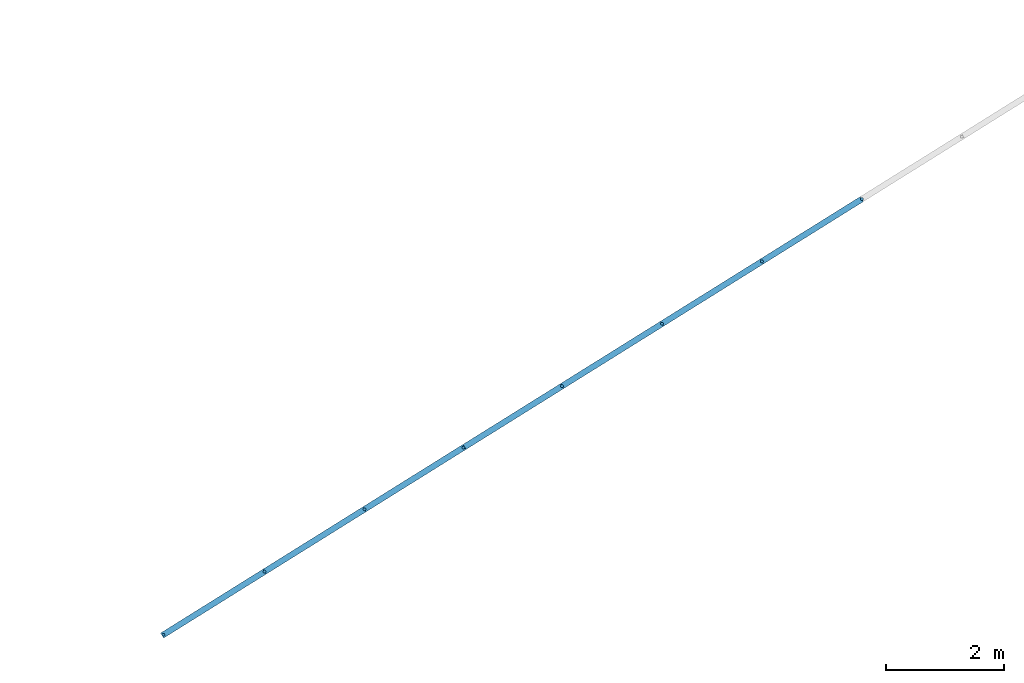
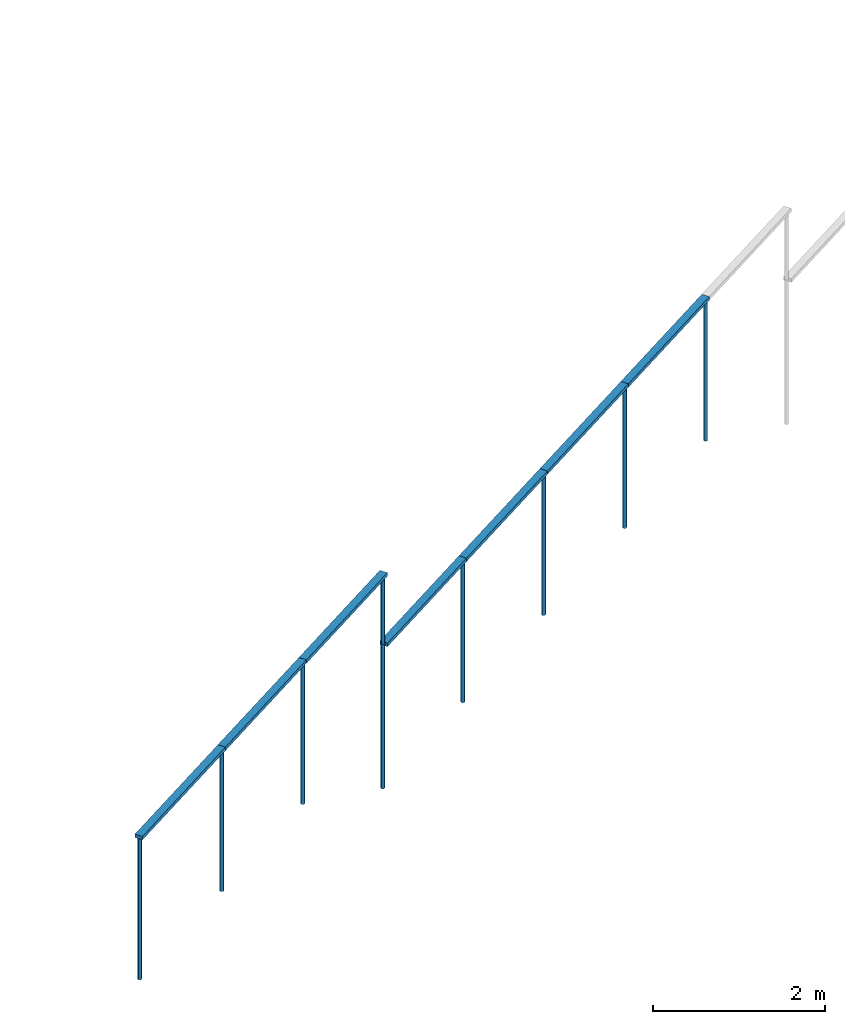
# One storey, part 2 of 3: 16 members, 2 elements without a shape of their own.
"""IFC2X3 building model written with IfcOpenShell, lengths in metres."""

from ifc_helpers import new_model, entity, si_unit, converted_unit, derived_unit, direction, frame, frame_2d, origin, origin_2d_with_axis, place, context, subcontext, project, spatial, rectangle, circle, extrude, source, transform, mapped, material, type_object, type_shapes, element, aggregate, save


model = new_model("IFC2X3")

# Units and contexts
model_context = context("Model", 3, precision=1e-05, world=origin(), true_north=direction((6.123031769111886e-17, 1.0)))
body_context = subcontext(model_context, "Body", "Model", "MODEL_VIEW")
ifc_project = project(units=[si_unit("LENGTHUNIT", "METRE"), si_unit("AREAUNIT", "SQUARE_METRE"), si_unit("VOLUMEUNIT", "CUBIC_METRE"), converted_unit("PLANEANGLEUNIT", "DEGREE", entity("IfcRatioMeasure", 0.017453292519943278), si_unit("PLANEANGLEUNIT", "RADIAN"), dimensions=[0, 0, 0, 0, 0, 0, 0]), si_unit("MASSUNIT", "GRAM", prefix="KILO"), derived_unit("MASSDENSITYUNIT", [(si_unit("MASSUNIT", "GRAM", prefix="KILO"), 1), (si_unit("LENGTHUNIT", "METRE"), -3)]), derived_unit("IONCONCENTRATIONUNIT", [(si_unit("MASSUNIT", "GRAM", prefix="KILO"), 1), (si_unit("LENGTHUNIT", "METRE"), -3)]), derived_unit("MOMENTOFINERTIAUNIT", [(si_unit("LENGTHUNIT", "METRE"), 4)]), si_unit("TIMEUNIT", "SECOND"), si_unit("FREQUENCYUNIT", "HERTZ"), si_unit("THERMODYNAMICTEMPERATUREUNIT", "DEGREE_CELSIUS"), derived_unit("THERMALTRANSMITTANCEUNIT", [(si_unit("MASSUNIT", "GRAM", prefix="KILO"), 1), (si_unit("THERMODYNAMICTEMPERATUREUNIT", "KELVIN"), -1), (si_unit("TIMEUNIT", "SECOND"), -3)]), derived_unit("THERMALCONDUCTANCEUNIT", [(si_unit("MASSUNIT", "GRAM", prefix="KILO"), 1), (si_unit("THERMODYNAMICTEMPERATUREUNIT", "KELVIN"), -1), (si_unit("TIMEUNIT", "SECOND"), -3), (si_unit("LENGTHUNIT", "METRE"), 1)]), derived_unit("VOLUMETRICFLOWRATEUNIT", [(si_unit("LENGTHUNIT", "METRE"), 3), (si_unit("TIMEUNIT", "SECOND"), -1)]), derived_unit("MASSFLOWRATEUNIT", [(si_unit("MASSUNIT", "GRAM", prefix="KILO"), 1), (si_unit("TIMEUNIT", "SECOND"), -1)]), derived_unit("ROTATIONALFREQUENCYUNIT", [(si_unit("TIMEUNIT", "SECOND"), -1)]), si_unit("ELECTRICCURRENTUNIT", "AMPERE"), si_unit("ELECTRICVOLTAGEUNIT", "VOLT"), si_unit("POWERUNIT", "WATT"), si_unit("FORCEUNIT", "NEWTON", prefix="KILO"), si_unit("ILLUMINANCEUNIT", "LUX"), si_unit("LUMINOUSFLUXUNIT", "LUMEN"), si_unit("LUMINOUSINTENSITYUNIT", "CANDELA"), derived_unit("USERDEFINED", [(si_unit("MASSUNIT", "GRAM", prefix="KILO"), -1), (si_unit("LENGTHUNIT", "METRE"), -2), (si_unit("TIMEUNIT", "SECOND"), 3), (si_unit("LUMINOUSFLUXUNIT", "LUMEN"), 1)]), derived_unit("USERDEFINED", [(si_unit("MASSUNIT", "GRAM", prefix="KILO"), 1), (si_unit("TIMEUNIT", "SECOND"), -3), (si_unit("LENGTHUNIT", "METRE"), 3), (si_unit("ELECTRICCURRENTUNIT", "AMPERE"), -2)]), derived_unit("SOUNDPOWERUNIT", [(si_unit("MASSUNIT", "GRAM", prefix="KILO"), 1), (si_unit("TIMEUNIT", "SECOND"), -3), (si_unit("LENGTHUNIT", "METRE"), 2)]), derived_unit("SOUNDPRESSUREUNIT", [(si_unit("MASSUNIT", "GRAM", prefix="KILO"), 1), (si_unit("LENGTHUNIT", "METRE"), -1), (si_unit("TIMEUNIT", "SECOND"), -2)]), derived_unit("LINEARVELOCITYUNIT", [(si_unit("LENGTHUNIT", "METRE"), 1), (si_unit("TIMEUNIT", "SECOND"), -1)]), si_unit("PRESSUREUNIT", "PASCAL"), derived_unit("USERDEFINED", [(si_unit("MASSUNIT", "GRAM", prefix="KILO"), 1), (si_unit("LENGTHUNIT", "METRE"), -2), (si_unit("TIMEUNIT", "SECOND"), -2)]), derived_unit("LINEARFORCEUNIT", [(si_unit("MASSUNIT", "GRAM", prefix="KILO"), 1), (si_unit("TIMEUNIT", "SECOND"), -2)]), derived_unit("PLANARFORCEUNIT", [(si_unit("MASSUNIT", "GRAM", prefix="KILO"), 1), (si_unit("LENGTHUNIT", "METRE"), -1), (si_unit("TIMEUNIT", "SECOND"), -2)]), derived_unit("SPECIFICHEATCAPACITYUNIT", [(si_unit("THERMODYNAMICTEMPERATUREUNIT", "KELVIN"), -1), (si_unit("LENGTHUNIT", "METRE"), 2), (si_unit("TIMEUNIT", "SECOND"), -2)]), derived_unit("HEATINGVALUEUNIT", [(si_unit("LENGTHUNIT", "METRE"), 2), (si_unit("TIMEUNIT", "SECOND"), -2)]), derived_unit("VAPORPERMEABILITYUNIT", [(si_unit("LENGTHUNIT", "METRE"), -1), (si_unit("TIMEUNIT", "SECOND"), 1)]), derived_unit("DYNAMICVISCOSITYUNIT", [(si_unit("MASSUNIT", "GRAM", prefix="KILO"), 1), (si_unit("TIMEUNIT", "SECOND"), -1), (si_unit("LENGTHUNIT", "METRE"), -1)]), derived_unit("THERMALEXPANSIONCOEFFICIENTUNIT", [(si_unit("THERMODYNAMICTEMPERATUREUNIT", "KELVIN"), -1)]), derived_unit("MODULUSOFELASTICITYUNIT", [(si_unit("MASSUNIT", "GRAM", prefix="KILO"), 1), (si_unit("LENGTHUNIT", "METRE"), -1), (si_unit("TIMEUNIT", "SECOND"), -2)]), derived_unit("ISOTHERMALMOISTURECAPACITYUNIT", [(si_unit("LENGTHUNIT", "METRE"), 3), (si_unit("MASSUNIT", "GRAM", prefix="KILO"), -1)]), derived_unit("MOISTUREDIFFUSIVITYUNIT", [(si_unit("TIMEUNIT", "SECOND"), -1), (si_unit("LENGTHUNIT", "METRE"), 2)])], contexts=[model_context])

# Site, building, storey
site_placement = place(None, origin())
site = spatial("IfcSite", under=ifc_project, at=site_placement, Name="Superficie", CompositionType="ELEMENT")
building_placement = place(site_placement, frame((0.0, 0.0, 235.0), z_axis=(0.0, 0.0, 1.0), x_axis=(-0.7996477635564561, 0.6004693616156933, 0.0)))
building = spatial("IfcBuilding", under=site, at=building_placement, CompositionType="ELEMENT")
storey_placement = place(building_placement, frame((0.0, 0.0, 3.400000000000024)))
storey = spatial("IfcBuildingStorey", under=building, at=storey_placement, Name="PC- Coberta STR", CompositionType="ELEMENT", Elevation=3.400000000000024)

# Curtain wall, members
curtain_wall_type = type_object("IfcCurtainWallType", Name="Muro cortina:SER EXT- Tanca exterior", PredefinedType="NOTDEFINED")
curtain_wall_1_placement = place(storey_placement, frame((0.0, 0.0, -3.400000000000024)))
curtain_wall_1 = element("IfcCurtainWall", 1, at=curtain_wall_1_placement, inside=storey, type_object=curtain_wall_type, Name="Muro cortina:SER EXT- Tanca exterior", ObjectType="Muro cortina:SER EXT- Tanca exterior")
ifc_material_1 = material(Name="Acero inoxidable")
member_type_1 = type_object("IfcMemberType", Name="Montante circular:Perfil Tanca exterior", PredefinedType="MULLION", material=ifc_material_1)
shared_shape_1 = source(origin(), body_context, "Body", "SweptSolid", [
    extrude(circle(Radius=0.025, at=frame_2d((-2.1149748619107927e-18, -4.0388614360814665e-17), x_axis=(1.0, 0.0))), frame((0.0, 0.0, -2.0), z_axis=(0.0, 0.0, 1.0), x_axis=(-1.0, 0.0, 0.0)), (0.0, 0.0, 1.0), 1.9999999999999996),
])
type_shapes(member_type_1, [shared_shape_1])
member_1_placement = place(curtain_wall_1_placement, frame((-3.185395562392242, -20.248991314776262, -1.9749999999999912), z_axis=(0.0, 0.0, -1.0), x_axis=(-0.36064275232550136, -0.9327040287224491, 0.0)))
member_1 = element("IfcMember", 2, at=member_1_placement, type_object=member_type_1, material=ifc_material_1, Name="Montante circular:Perfil Tanca exterior", ObjectType="Montante circular:Perfil Tanca exterior", context=body_context, shape_type="MappedRepresentation", body=[
    mapped(shared_shape_1, transform((0.0, 0.0, 0.0), scale=1.0)),
])
member_2_placement = place(curtain_wall_1_placement, frame((-3.9066810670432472, -22.114399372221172, -1.9749999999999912), z_axis=(0.0, 0.0, -1.0), x_axis=(-0.36064275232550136, -0.9327040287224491, 0.0)))
member_2 = element("IfcMember", 3, at=member_2_placement, type_object=member_type_1, material=ifc_material_1, Name="Montante circular:Perfil Tanca exterior", ObjectType="Montante circular:Perfil Tanca exterior", context=body_context, shape_type="MappedRepresentation", body=[
    mapped(shared_shape_1, transform((0.0, 0.0, 0.0), scale=1.0)),
])

curtain_wall_2_placement = place(storey_placement, frame((0.0, 0.0, -3.400000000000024)))
curtain_wall_2 = element("IfcCurtainWall", 4, at=curtain_wall_2_placement, inside=storey, type_object=curtain_wall_type, Name="Muro cortina:SER EXT- Tanca exterior", ObjectType="Muro cortina:SER EXT- Tanca exterior")
member_3_placement = place(curtain_wall_2_placement, frame((-5.332489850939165, -25.800436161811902, -2.974999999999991), z_axis=(0.0, 0.0, -1.0), x_axis=(-0.36065095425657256, -0.9327008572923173, 0.0)))
member_3 = element("IfcMember", 5, at=member_3_placement, type_object=member_type_1, material=ifc_material_1, Name="Montante circular:Perfil Tanca exterior", ObjectType="Montante circular:Perfil Tanca exterior", context=body_context, shape_type="MappedRepresentation", body=[
    mapped(shared_shape_1, transform((0.0, 0.0, 0.0), scale=1.0)),
])
member_4_placement = place(curtain_wall_2_placement, frame((-6.053791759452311, -27.665837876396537, -2.974999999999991), z_axis=(0.0, 0.0, -1.0), x_axis=(-0.36065095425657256, -0.9327008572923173, 0.0)))
member_4 = element("IfcMember", 6, at=member_4_placement, type_object=member_type_1, material=ifc_material_1, Name="Montante circular:Perfil Tanca exterior", ObjectType="Montante circular:Perfil Tanca exterior", context=body_context, shape_type="MappedRepresentation", body=[
    mapped(shared_shape_1, transform((0.0, 0.0, 0.0), scale=1.0)),
])
member_5_placement = place(curtain_wall_2_placement, frame((-6.775093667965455, -29.531239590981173, -2.974999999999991), z_axis=(0.0, 0.0, -1.0), x_axis=(-0.36065095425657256, -0.9327008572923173, 0.0)))
member_5 = element("IfcMember", 7, at=member_5_placement, type_object=member_type_1, material=ifc_material_1, Name="Montante circular:Perfil Tanca exterior", ObjectType="Montante circular:Perfil Tanca exterior", context=body_context, shape_type="MappedRepresentation", body=[
    mapped(shared_shape_1, transform((0.0, 0.0, 0.0), scale=1.0)),
])
member_6_placement = place(curtain_wall_2_placement, frame((-7.496395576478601, -31.396641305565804, -2.974999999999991), z_axis=(0.0, 0.0, -1.0), x_axis=(-0.36065095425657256, -0.9327008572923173, 0.0)))
member_6 = element("IfcMember", 8, at=member_6_placement, type_object=member_type_1, material=ifc_material_1, Name="Montante circular:Perfil Tanca exterior", ObjectType="Montante circular:Perfil Tanca exterior", context=body_context, shape_type="MappedRepresentation", body=[
    mapped(shared_shape_1, transform((0.0, 0.0, 0.0), scale=1.0)),
])

# Member
member_type_2 = type_object("IfcMemberType", Name="Montante circular:Perfil Tanca exterior", PredefinedType="MULLION", material=ifc_material_1)
shared_shape_2 = source(origin(), body_context, "Body", "SweptSolid", [
    extrude(circle(Radius=0.025, at=frame_2d((-1.304992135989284e-31, 4.038861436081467e-17), x_axis=(1.0, 0.0))), frame((-0.025, 0.0, -2.0)), (0.0, 0.0, 1.0), 1.9999999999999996),
])
type_shapes(member_type_2, [shared_shape_2])
member_7_placement = place(curtain_wall_1_placement, frame((-2.4460814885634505, -18.33695728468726, 0.025000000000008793), z_axis=(0.0, 0.0, 1.0), x_axis=(0.3606427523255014, 0.9327040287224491, 0.0)))
member_7 = element("IfcMember", 9, at=member_7_placement, type_object=member_type_2, material=ifc_material_1, Name="Montante circular:Perfil Tanca exterior", ObjectType="Montante circular:Perfil Tanca exterior", context=body_context, shape_type="MappedRepresentation", body=[
    mapped(shared_shape_2, transform((0.0, 0.0, 0.0), scale=1.0)),
])

member_type_3 = type_object("IfcMemberType", Name="Montante circular:Perfil Tanca exterior", PredefinedType="MULLION", material=ifc_material_1)
shared_shape_3 = source(origin(), body_context, "Body", "SweptSolid", [
    extrude(circle(Radius=0.025, at=frame_2d((1.3661718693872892e-31, -4.46185640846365e-17), x_axis=(1.0, 0.0))), frame((-0.025, 0.0, -2.0), z_axis=(0.0, 0.0, 1.0), x_axis=(-1.0, 0.0, 0.0)), (0.0, 0.0, 1.0), 1.9999999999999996),
])
type_shapes(member_type_3, [shared_shape_3])
member_8_placement = place(curtain_wall_1_placement, frame((-4.628751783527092, -23.981838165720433, -1.9749999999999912), z_axis=(0.0, 0.0, -1.0), x_axis=(-0.36064275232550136, -0.9327040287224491, 0.0)))
member_8 = element("IfcMember", 10, at=member_8_placement, type_object=member_type_3, material=ifc_material_1, Name="Montante circular:Perfil Tanca exterior", ObjectType="Montante circular:Perfil Tanca exterior", context=body_context, shape_type="MappedRepresentation", body=[
    mapped(shared_shape_3, transform((0.0, 0.0, 0.0), scale=1.0)),
])

ifc_material_2 = material(Name="_Formigó- Solera- T1- STR")
member_type_4 = type_object("IfcMemberType", Name="Montante rectangular:Montante rectangular 100x50", PredefinedType="MULLION", material=ifc_material_2)
shared_shape_4 = source(origin(), body_context, "Body", "SweptSolid", [
    extrude(rectangle(XDim=0.1, YDim=0.05000000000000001, at=origin_2d_with_axis()), frame((-0.025000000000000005, 0.0, -2.0499999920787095), z_axis=(0.0, 0.0, 1.0), x_axis=(0.0, -1.0, 0.0)), (0.0, 0.0, 1.0), 2.04999999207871),
])
type_shapes(member_type_4, [shared_shape_4])
member_9_placement = place(curtain_wall_1_placement, frame((-3.1853955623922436, -20.24899131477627, 0.07500000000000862), z_axis=(-0.3606427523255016, -0.9327040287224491, 0.0), x_axis=(0.0, 0.0, 1.0)))
member_9 = element("IfcMember", 11, at=member_9_placement, type_object=member_type_4, material=ifc_material_2, Name="Montante rectangular:Montante rectangular 100x50", ObjectType="Montante rectangular:Montante rectangular 100x50", context=body_context, shape_type="MappedRepresentation", body=[
    mapped(shared_shape_4, transform((0.0, 0.0, 0.0), scale=1.0)),
])

member_type_5 = type_object("IfcMemberType", Name="Montante circular:Perfil Tanca exterior", PredefinedType="MULLION", material=ifc_material_1)
shared_shape_5 = source(origin(), body_context, "Body", "SweptSolid", [
    extrude(circle(Radius=0.025, at=frame_2d((-1.304992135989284e-31, 4.038861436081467e-17), x_axis=(1.0, 0.0))), frame((-0.025, 0.0, -2.0500000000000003)), (0.0, 0.0, 1.0), 2.0500000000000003),
])
type_shapes(member_type_5, [shared_shape_5])
member_10_placement = place(curtain_wall_2_placement, frame((-4.611187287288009, -23.93503275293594, -0.9249999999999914), z_axis=(0.0, 0.0, 1.0), x_axis=(0.36065095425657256, 0.9327008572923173, 0.0)))
member_10 = element("IfcMember", 12, at=member_10_placement, type_object=member_type_5, material=ifc_material_1, Name="Montante circular:Perfil Tanca exterior", ObjectType="Montante circular:Perfil Tanca exterior", context=body_context, shape_type="MappedRepresentation", body=[
    mapped(shared_shape_5, transform((0.0, 0.0, 0.0), scale=1.0)),
])

member_type_6 = type_object("IfcMemberType", Name="Montante rectangular:Montante rectangular 100x50", PredefinedType="MULLION", material=ifc_material_2)
shared_shape_6 = source(origin(), body_context, "Body", "SweptSolid", [
    extrude(rectangle(XDim=0.1, YDim=0.05000000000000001, at=origin_2d_with_axis()), frame((-0.025000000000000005, 0.0, -1.9500000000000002), z_axis=(0.0, 0.0, 1.0), x_axis=(0.0, -1.0, 0.0)), (0.0, 0.0, 1.0), 1.9500000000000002),
])
type_shapes(member_type_6, [shared_shape_6])
member_11_placement = place(curtain_wall_2_placement, frame((-5.332489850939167, -25.800436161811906, -0.9249999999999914), z_axis=(-0.3606509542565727, -0.9327008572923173, 0.0), x_axis=(0.0, 0.0, 1.0)))
member_11 = element("IfcMember", 13, at=member_11_placement, type_object=member_type_6, material=ifc_material_2, Name="Montante rectangular:Montante rectangular 100x50", ObjectType="Montante rectangular:Montante rectangular 100x50", context=body_context, shape_type="MappedRepresentation", body=[
    mapped(shared_shape_6, transform((0.0, 0.0, 0.0), scale=1.0)),
])

member_type_7 = type_object("IfcMemberType", Name="Montante rectangular:Montante rectangular 100x50", PredefinedType="MULLION", material=ifc_material_2)
shared_shape_7 = source(origin(), body_context, "Body", "SweptSolid", [
    extrude(rectangle(XDim=0.1, YDim=0.05000000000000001, at=origin_2d_with_axis()), frame((-0.025000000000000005, 0.0, -2.0), z_axis=(0.0, 0.0, 1.0), x_axis=(0.0, -1.0, 0.0)), (0.0, 0.0, 1.0), 2.0000000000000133),
])
type_shapes(member_type_7, [shared_shape_7])
member_12_placement = place(curtain_wall_1_placement, frame((-3.906681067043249, -22.114399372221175, 0.07500000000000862), z_axis=(-0.3606427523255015, -0.9327040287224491, 0.0), x_axis=(0.0, 0.0, 1.0)))
member_12 = element("IfcMember", 14, at=member_12_placement, type_object=member_type_7, material=ifc_material_2, Name="Montante rectangular:Montante rectangular 100x50", ObjectType="Montante rectangular:Montante rectangular 100x50", context=body_context, shape_type="MappedRepresentation", body=[
    mapped(shared_shape_7, transform((0.0, 0.0, 0.0), scale=1.0)),
])

member_13_placement = place(curtain_wall_2_placement, frame((-6.053791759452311, -27.665837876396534, -0.9249999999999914), z_axis=(-0.36065095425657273, -0.9327008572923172, 0.0), x_axis=(0.0, 0.0, 1.0)))
member_13 = element("IfcMember", 15, at=member_13_placement, type_object=member_type_7, material=ifc_material_2, Name="Montante rectangular:Montante rectangular 100x50", ObjectType="Montante rectangular:Montante rectangular 100x50", context=body_context, shape_type="MappedRepresentation", body=[
    mapped(shared_shape_7, transform((0.0, 0.0, 0.0), scale=1.0)),
])

member_14_placement = place(curtain_wall_2_placement, frame((-6.7750936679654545, -29.53123959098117, -0.9249999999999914), z_axis=(-0.36065095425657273, -0.9327008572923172, 0.0), x_axis=(0.0, 0.0, 1.0)))
member_14 = element("IfcMember", 16, at=member_14_placement, type_object=member_type_7, material=ifc_material_2, Name="Montante rectangular:Montante rectangular 100x50", ObjectType="Montante rectangular:Montante rectangular 100x50", context=body_context, shape_type="MappedRepresentation", body=[
    mapped(shared_shape_7, transform((0.0, 0.0, 0.0), scale=1.0)),
])

member_15_placement = place(curtain_wall_2_placement, frame((-7.4963955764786, -31.396641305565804, -0.9249999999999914), z_axis=(-0.36065095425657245, -0.9327008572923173, 0.0), x_axis=(0.0, 0.0, 1.0)))
member_15 = element("IfcMember", 17, at=member_15_placement, type_object=member_type_7, material=ifc_material_2, Name="Montante rectangular:Montante rectangular 100x50", ObjectType="Montante rectangular:Montante rectangular 100x50", context=body_context, shape_type="MappedRepresentation", body=[
    mapped(shared_shape_7, transform((0.0, 0.0, 0.0), scale=1.0)),
])

aggregate(curtain_wall_2, [member_10, member_3, member_4, member_5, member_6, member_11, member_13, member_14, member_15])

member_type_8 = type_object("IfcMemberType", Name="Montante rectangular:Montante rectangular 100x50", PredefinedType="MULLION", material=ifc_material_2)
shared_shape_8 = source(origin(), body_context, "Body", "SweptSolid", [
    extrude(rectangle(XDim=0.1, YDim=0.05000000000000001, at=origin_2d_with_axis()), frame((-0.025000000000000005, 0.0, -2.00217725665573), z_axis=(0.0, 0.0, 1.0), x_axis=(0.0, -1.0, 0.0)), (0.0, 0.0, 1.0), 2.00217725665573),
])
type_shapes(member_type_8, [shared_shape_8])
member_16_placement = place(curtain_wall_1_placement, frame((-4.628751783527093, -23.98183816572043, 0.07500000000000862), z_axis=(-0.3606427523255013, -0.9327040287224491, 0.0), x_axis=(0.0, 0.0, 1.0)))
member_16 = element("IfcMember", 18, at=member_16_placement, type_object=member_type_8, material=ifc_material_2, Name="Montante rectangular:Montante rectangular 100x50", ObjectType="Montante rectangular:Montante rectangular 100x50", context=body_context, shape_type="MappedRepresentation", body=[
    mapped(shared_shape_8, transform((0.0, 0.0, 0.0), scale=1.0)),
])

aggregate(curtain_wall_1, [member_7, member_1, member_2, member_8, member_16, member_9, member_12])

save(model, "model.ifc")
